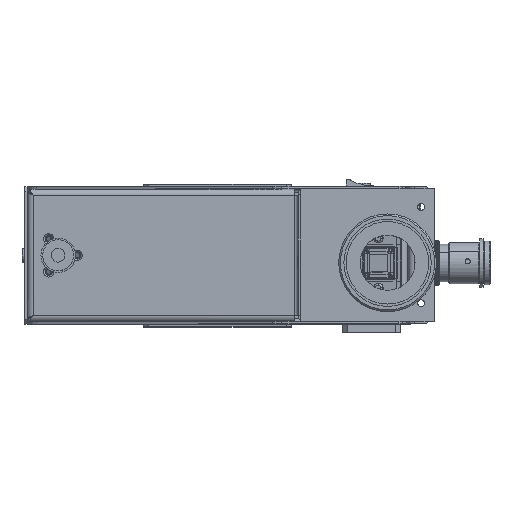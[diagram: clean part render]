
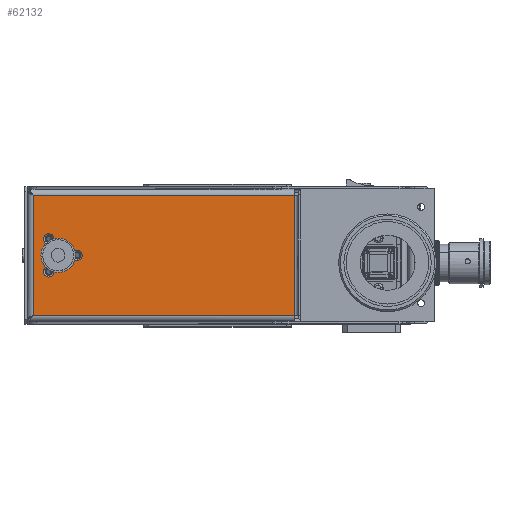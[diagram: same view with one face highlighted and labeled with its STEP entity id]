
A CAD part, top view. The second image highlights one B-rep face of the part: STEP entity #62132.
In plain terms, the highlighted planar face has unit normal (0, 0, 1) as drawn and (0, 1, 0) by its records, which use the part's own axes.
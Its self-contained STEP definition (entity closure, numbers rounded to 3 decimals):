
#300 = CARTESIAN_POINT ( 'NONE',  ( 18., 0., 38.5 ) ) ;
#326 = LINE ( 'NONE', #48608, #1263 ) ;
#740 = ORIENTED_EDGE ( 'NONE', *, *, #58714, .T. ) ;
#823 = VECTOR ( 'NONE', #56614, 1000. ) ;
#1263 = VECTOR ( 'NONE', #26613, 1000. ) ;
#2579 = CARTESIAN_POINT ( 'NONE',  ( 12.5, 0., 25.924 ) ) ;
#3756 = DIRECTION ( 'NONE',  ( 0., -1., 0. ) ) ;
#4202 = CIRCLE ( 'NONE', #62508, 3.05 ) ;
#4421 = CARTESIAN_POINT ( 'NONE',  ( 12.5, 0., 48.026 ) ) ;
#6421 = VERTEX_POINT ( 'NONE', #35076 ) ;
#7444 = EDGE_LOOP ( 'NONE', ( #24854, #66849, #17618, #740 ) ) ;
#8599 = LINE ( 'NONE', #60408, #10097 ) ;
#10097 = VECTOR ( 'NONE', #60887, 1000. ) ;
#10724 = DIRECTION ( 'NONE',  ( 0., 0., 1. ) ) ;
#10792 = DIRECTION ( 'NONE',  ( 0., 1., 0. ) ) ;
#11014 = CARTESIAN_POINT ( 'NONE',  ( 0., 0., 77. ) ) ;
#11240 = PLANE ( 'NONE',  #69408 ) ;
#11271 = VERTEX_POINT ( 'NONE', #17479 ) ;
#11973 = CARTESIAN_POINT ( 'NONE',  ( 18., 0., 31. ) ) ;
#11982 = DIRECTION ( 'NONE',  ( 0., 0., 1. ) ) ;
#12533 = AXIS2_PLACEMENT_3D ( 'NONE', #59115, #58991, #58882 ) ;
#12612 = FACE_OUTER_BOUND ( 'NONE', #7444, .T. ) ;
#17479 = CARTESIAN_POINT ( 'NONE',  ( 155.6, 0., 73.6 ) ) ;
#17618 = ORIENTED_EDGE ( 'NONE', *, *, #84999, .T. ) ;
#18824 = CIRCLE ( 'NONE', #81214, 3.05 ) ;
#19904 = VERTEX_POINT ( 'NONE', #77240 ) ;
#20372 = DIRECTION ( 'NONE',  ( 0., 0., 1. ) ) ;
#20422 = EDGE_CURVE ( 'NONE', #37249, #87688, #82848, .T. ) ;
#20461 = DIRECTION ( 'NONE',  ( 0., 1., 0. ) ) ;
#20572 = CARTESIAN_POINT ( 'NONE',  ( 18., 0., 38.5 ) ) ;
#21560 = VERTEX_POINT ( 'NONE', #2579 ) ;
#22347 = LINE ( 'NONE', #69238, #39716 ) ;
#22405 = VERTEX_POINT ( 'NONE', #91308 ) ;
#23341 = FACE_BOUND ( 'NONE', #24488, .T. ) ;
#24407 = VERTEX_POINT ( 'NONE', #11973 ) ;
#24488 = EDGE_LOOP ( 'NONE', ( #42327, #52950 ) ) ;
#24854 = ORIENTED_EDGE ( 'NONE', *, *, #40443, .T. ) ;
#26613 = DIRECTION ( 'NONE',  ( 1., 0., 0. ) ) ;
#27160 = ORIENTED_EDGE ( 'NONE', *, *, #20422, .T. ) ;
#27879 = EDGE_CURVE ( 'NONE', #64815, #19904, #8599, .T. ) ;
#27998 = CIRCLE ( 'NONE', #36984, 3.05 ) ;
#28214 = FACE_BOUND ( 'NONE', #45002, .T. ) ;
#30896 = AXIS2_PLACEMENT_3D ( 'NONE', #300, #65667, #87069 ) ;
#31995 = EDGE_CURVE ( 'NONE', #59175, #24407, #33649, .T. ) ;
#33649 = CIRCLE ( 'NONE', #72740, 7.5 ) ;
#33958 = CARTESIAN_POINT ( 'NONE',  ( 29., 0., 41.55 ) ) ;
#34017 = CARTESIAN_POINT ( 'NONE',  ( 12.5, 0., 44.976 ) ) ;
#35076 = CARTESIAN_POINT ( 'NONE',  ( 12.5, 0., 32.024 ) ) ;
#35378 = EDGE_CURVE ( 'NONE', #61331, #73786, #43296, .T. ) ;
#36259 = CARTESIAN_POINT ( 'NONE',  ( 3.4, 0., 3.4 ) ) ;
#36583 = ORIENTED_EDGE ( 'NONE', *, *, #45978, .F. ) ;
#36984 = AXIS2_PLACEMENT_3D ( 'NONE', #48373, #3756, #55698 ) ;
#37249 = VERTEX_POINT ( 'NONE', #34017 ) ;
#38459 = FACE_BOUND ( 'NONE', #81718, .T. ) ;
#39716 = VECTOR ( 'NONE', #69047, 1000. ) ;
#39909 = CARTESIAN_POINT ( 'NONE',  ( 12.5, 0., 28.974 ) ) ;
#40443 = EDGE_CURVE ( 'NONE', #22405, #64815, #53163, .T. ) ;
#41339 = CIRCLE ( 'NONE', #30896, 7.5 ) ;
#42327 = ORIENTED_EDGE ( 'NONE', *, *, #49107, .T. ) ;
#43296 = CIRCLE ( 'NONE', #12533, 3.05 ) ;
#45002 = EDGE_LOOP ( 'NONE', ( #74256, #27160 ) ) ;
#45978 = EDGE_CURVE ( 'NONE', #24407, #59175, #41339, .T. ) ;
#47338 = DIRECTION ( 'NONE',  ( 0., 0., 1. ) ) ;
#48373 = CARTESIAN_POINT ( 'NONE',  ( 29., 0., 38.5 ) ) ;
#48608 = CARTESIAN_POINT ( 'NONE',  ( 0., 0., 73.6 ) ) ;
#49107 = EDGE_CURVE ( 'NONE', #6421, #21560, #18824, .T. ) ;
#50369 = CARTESIAN_POINT ( 'NONE',  ( 29., 0., 35.45 ) ) ;
#50648 = CARTESIAN_POINT ( 'NONE',  ( 18., 0., 46. ) ) ;
#52113 = DIRECTION ( 'NONE',  ( 0., 0., 1. ) ) ;
#52189 = DIRECTION ( 'NONE',  ( 0., -1., 0. ) ) ;
#52302 = CARTESIAN_POINT ( 'NONE',  ( 12.5, 0., 48.026 ) ) ;
#52390 = AXIS2_PLACEMENT_3D ( 'NONE', #4421, #56350, #11982 ) ;
#52950 = ORIENTED_EDGE ( 'NONE', *, *, #89388, .T. ) ;
#53163 = LINE ( 'NONE', #56923, #823 ) ;
#55698 = DIRECTION ( 'NONE',  ( 0., 0., 1. ) ) ;
#56350 = DIRECTION ( 'NONE',  ( 0., -1., 0. ) ) ;
#56614 = DIRECTION ( 'NONE',  ( -1., 0., 0. ) ) ;
#56923 = CARTESIAN_POINT ( 'NONE',  ( 155.6, 0., 3.4 ) ) ;
#58201 = ORIENTED_EDGE ( 'NONE', *, *, #31995, .F. ) ;
#58714 = EDGE_CURVE ( 'NONE', #11271, #22405, #22347, .T. ) ;
#58882 = DIRECTION ( 'NONE',  ( 0., 0., 1. ) ) ;
#58991 = DIRECTION ( 'NONE',  ( 0., -1., 0. ) ) ;
#59115 = CARTESIAN_POINT ( 'NONE',  ( 29., 0., 38.5 ) ) ;
#59175 = VERTEX_POINT ( 'NONE', #50648 ) ;
#60408 = CARTESIAN_POINT ( 'NONE',  ( 3.4, 0., 3.4 ) ) ;
#60887 = DIRECTION ( 'NONE',  ( 0., 0., 1. ) ) ;
#61331 = VERTEX_POINT ( 'NONE', #50369 ) ;
#61539 = FACE_BOUND ( 'NONE', #70169, .T. ) ;
#62132 = ADVANCED_FACE ( 'NONE', ( #38459, #28214, #23341, #61539, #12612 ), #11240, .T. ) ;
#62268 = CIRCLE ( 'NONE', #52390, 3.05 ) ;
#62508 = AXIS2_PLACEMENT_3D ( 'NONE', #39909, #90509, #47338 ) ;
#64815 = VERTEX_POINT ( 'NONE', #36259 ) ;
#65667 = DIRECTION ( 'NONE',  ( 0., 1., 0. ) ) ;
#66849 = ORIENTED_EDGE ( 'NONE', *, *, #27879, .T. ) ;
#69047 = DIRECTION ( 'NONE',  ( 0., 0., -1. ) ) ;
#69238 = CARTESIAN_POINT ( 'NONE',  ( 155.6, 0., 77. ) ) ;
#69408 = AXIS2_PLACEMENT_3D ( 'NONE', #11014, #10792, #10724 ) ;
#69461 = ORIENTED_EDGE ( 'NONE', *, *, #35378, .T. ) ;
#70169 = EDGE_LOOP ( 'NONE', ( #58201, #36583 ) ) ;
#72740 = AXIS2_PLACEMENT_3D ( 'NONE', #20572, #20461, #20372 ) ;
#73786 = VERTEX_POINT ( 'NONE', #33958 ) ;
#74154 = AXIS2_PLACEMENT_3D ( 'NONE', #52302, #52189, #52113 ) ;
#74256 = ORIENTED_EDGE ( 'NONE', *, *, #84454, .T. ) ;
#75286 = DIRECTION ( 'NONE',  ( 0., 0., 1. ) ) ;
#75303 = DIRECTION ( 'NONE',  ( 0., -1., 0. ) ) ;
#75366 = CARTESIAN_POINT ( 'NONE',  ( 12.5, 0., 28.974 ) ) ;
#77240 = CARTESIAN_POINT ( 'NONE',  ( 3.4, 0., 73.6 ) ) ;
#79181 = EDGE_CURVE ( 'NONE', #73786, #61331, #27998, .T. ) ;
#80200 = ORIENTED_EDGE ( 'NONE', *, *, #79181, .T. ) ;
#81214 = AXIS2_PLACEMENT_3D ( 'NONE', #75366, #75303, #75286 ) ;
#81718 = EDGE_LOOP ( 'NONE', ( #80200, #69461 ) ) ;
#82848 = CIRCLE ( 'NONE', #74154, 3.05 ) ;
#84454 = EDGE_CURVE ( 'NONE', #87688, #37249, #62268, .T. ) ;
#84999 = EDGE_CURVE ( 'NONE', #19904, #11271, #326, .T. ) ;
#87069 = DIRECTION ( 'NONE',  ( 0., 0., 1. ) ) ;
#87688 = VERTEX_POINT ( 'NONE', #92309 ) ;
#89388 = EDGE_CURVE ( 'NONE', #21560, #6421, #4202, .T. ) ;
#90509 = DIRECTION ( 'NONE',  ( 0., -1., 0. ) ) ;
#91308 = CARTESIAN_POINT ( 'NONE',  ( 155.6, 0., 3.4 ) ) ;
#92309 = CARTESIAN_POINT ( 'NONE',  ( 12.5, 0., 51.076 ) ) ;
